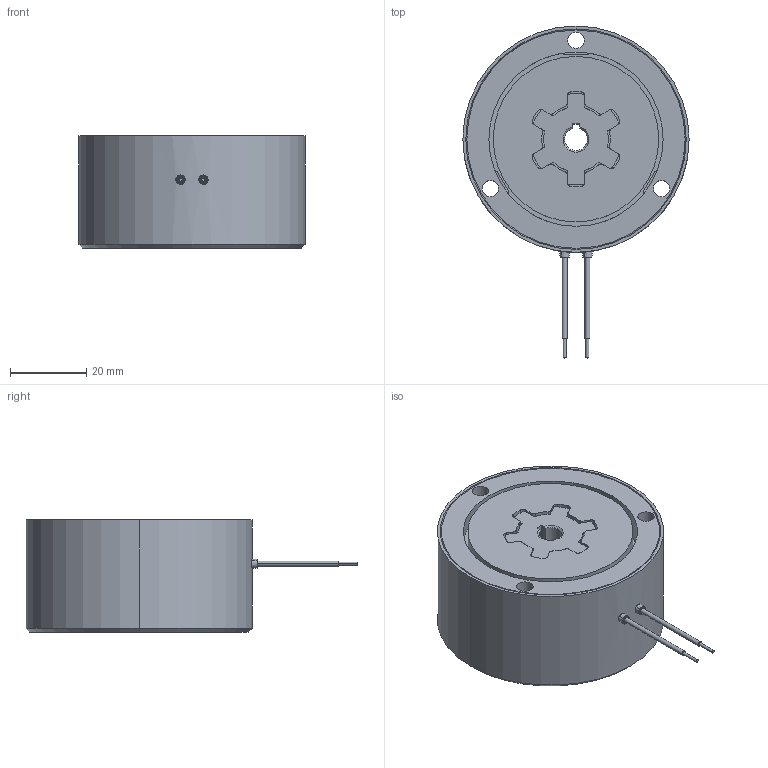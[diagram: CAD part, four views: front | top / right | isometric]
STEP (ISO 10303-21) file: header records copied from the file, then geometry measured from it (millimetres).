
FILE_DESCRIPTION (( 'STEP AP214' ), '1' );
FILE_NAME ('dr_bk_0008.STEP', '2021-11-08T13:41:04', ( '' ), ( '' ), 'SwSTEP 2.0', 'SolidWorks 2019', '' );
FILE_SCHEMA (( 'AUTOMOTIVE_DESIGN' ));
Length unit declared in the file: millimetre
Products named in the file (7): 10068542_000_Einbaul„nge 19,65mm; 10068544_000; 10068545_000_Kundenmodell; 10068540_000; 10068546_000; 10068543_000; dr_bk_0008
Assembly tree (6 placements, depth 2):
  dr_bk_0008
    10068540_000
    10068542_000_Einbaul„nge 19,65mm
    10068544_000
    10068543_000
    10068545_000_Kundenmodell
    10068546_000
Bounding box: 59.5 x 87.25 x 29.5 mm (x, y, z)
Volume: 70777.6 mm3; surface area: 31350.4 mm2
Topology: 8 solids, 8 shells, 450 faces, 1149 edges, 722 vertices
Faces by surface type: cylinder 223, torus 108, plane 87, cone 26, bspline 6
Entity records: 17402 total; most frequent: CARTESIAN_POINT 5612, DIRECTION 2647, ORIENTED_EDGE 2298, EDGE_CURVE 1149, AXIS2_PLACEMENT_3D 1119, VERTEX_POINT 722, CIRCLE 666, EDGE_LOOP 483
